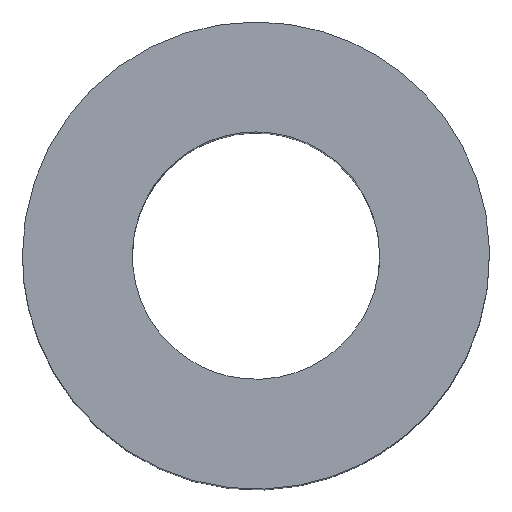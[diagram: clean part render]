
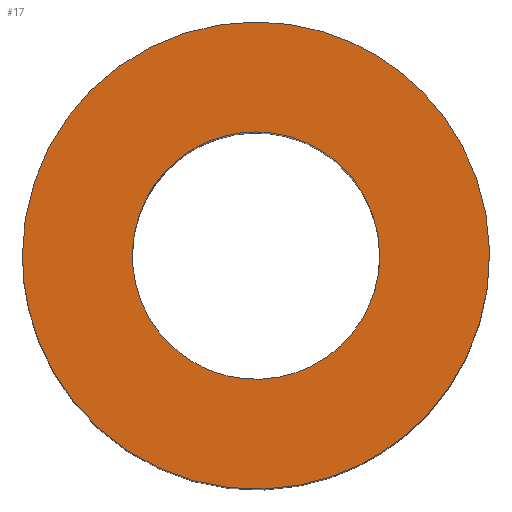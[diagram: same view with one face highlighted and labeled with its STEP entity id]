
A CAD part, top view. The second image highlights one B-rep face of the part: STEP entity #17.
In plain terms, the highlighted free-form (B-spline) face has degree [1, 1] with [2, 2] control points.
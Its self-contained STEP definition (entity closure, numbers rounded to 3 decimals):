
#17 = ADVANCED_FACE('',(#18,#32),#46,.T.);
#18 = FACE_BOUND('',#19,.T.);
#19 = EDGE_LOOP('',(#20));
#20 = ORIENTED_EDGE('',*,*,#21,.F.);
#21 = EDGE_CURVE('',#22,#22,#24,.T.);
#22 = VERTEX_POINT('',#23);
#23 = CARTESIAN_POINT('',(1.35,0.,6.));
#24 = ( BOUNDED_CURVE() B_SPLINE_CURVE(2,(#25,#26,#27,#28,#29,#30,#31),
.UNSPECIFIED.,.T.,.F.) B_SPLINE_CURVE_WITH_KNOTS((1,2,2,2,2,1),(
    -2.094,0.,2.094,4.189,6.283,
8.378),.UNSPECIFIED.) CURVE() GEOMETRIC_REPRESENTATION_ITEM() 
RATIONAL_B_SPLINE_CURVE((1.,0.5,1.,0.5,1.,0.5,1.)) REPRESENTATION_ITEM(
  '') );
#25 = CARTESIAN_POINT('',(1.35,0.,6.));
#26 = CARTESIAN_POINT('',(1.35,2.338,6.));
#27 = CARTESIAN_POINT('',(-0.675,1.169,6.));
#28 = CARTESIAN_POINT('',(-2.7,0.,6.));
#29 = CARTESIAN_POINT('',(-0.675,-1.169,6.));
#30 = CARTESIAN_POINT('',(1.35,-2.338,6.));
#31 = CARTESIAN_POINT('',(1.35,0.,6.));
#32 = FACE_BOUND('',#33,.T.);
#33 = EDGE_LOOP('',(#34));
#34 = ORIENTED_EDGE('',*,*,#35,.F.);
#35 = EDGE_CURVE('',#36,#36,#38,.T.);
#36 = VERTEX_POINT('',#37);
#37 = CARTESIAN_POINT('',(-2.55,0.,6.));
#38 = ( BOUNDED_CURVE() B_SPLINE_CURVE(2,(#39,#40,#41,#42,#43,#44,#45),
.UNSPECIFIED.,.T.,.F.) B_SPLINE_CURVE_WITH_KNOTS((1,2,2,2,2,1),(
    -2.094,0.,2.094,4.189,6.283,
8.378),.UNSPECIFIED.) CURVE() GEOMETRIC_REPRESENTATION_ITEM() 
RATIONAL_B_SPLINE_CURVE((1.,0.5,1.,0.5,1.,0.5,1.)) REPRESENTATION_ITEM(
  '') );
#39 = CARTESIAN_POINT('',(-2.55,0.,6.));
#40 = CARTESIAN_POINT('',(-2.55,4.417,6.));
#41 = CARTESIAN_POINT('',(1.275,2.208,6.));
#42 = CARTESIAN_POINT('',(5.1,0.,6.));
#43 = CARTESIAN_POINT('',(1.275,-2.208,6.));
#44 = CARTESIAN_POINT('',(-2.55,-4.417,6.));
#45 = CARTESIAN_POINT('',(-2.55,0.,6.));
#46 = B_SPLINE_SURFACE_WITH_KNOTS('',1,1,(
    (#47,#48)
    ,(#49,#50
    )),.UNSPECIFIED.,.F.,.F.,.F.,(2,2),(2,2),(0.,5.1),(-2.55,2.55),
  .PIECEWISE_BEZIER_KNOTS.);
#47 = CARTESIAN_POINT('',(-2.55,-2.55,6.));
#48 = CARTESIAN_POINT('',(-2.55,2.55,6.));
#49 = CARTESIAN_POINT('',(2.55,-2.55,6.));
#50 = CARTESIAN_POINT('',(2.55,2.55,6.));
